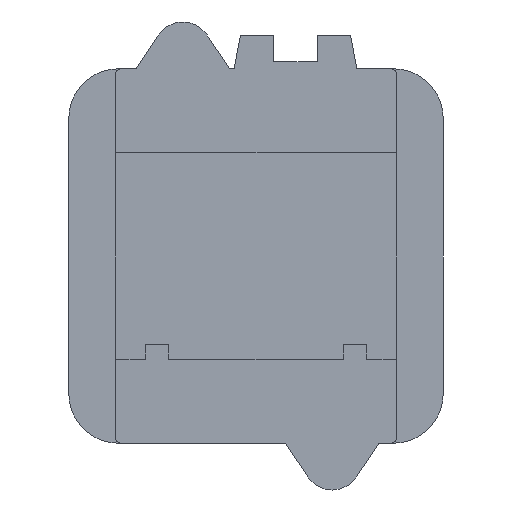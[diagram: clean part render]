
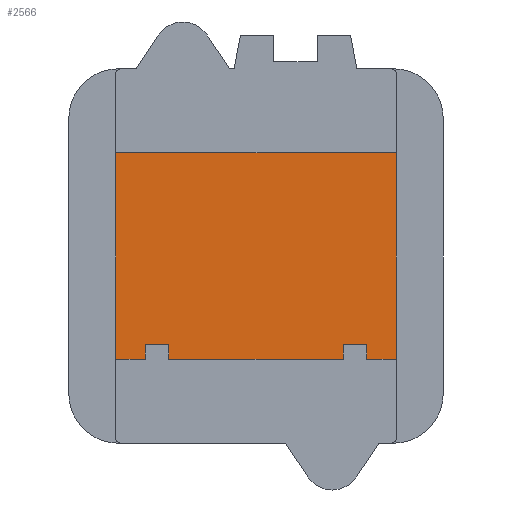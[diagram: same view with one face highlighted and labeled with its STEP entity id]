
A CAD part, front view. The second image highlights one B-rep face of the part: STEP entity #2566.
In plain terms, the highlighted planar face has unit normal (0, -1, 0).
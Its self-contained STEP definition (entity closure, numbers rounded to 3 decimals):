
#296 = DIRECTION ( 'NONE',  ( 1., 0., 0. ) ) ;
#596 = VECTOR ( 'NONE', #296, 1000. ) ;
#765 = LINE ( 'NONE', #1395, #596 ) ;
#845 = VERTEX_POINT ( 'NONE', #7013 ) ;
#918 = ORIENTED_EDGE ( 'NONE', *, *, #12560, .F. ) ;
#1070 = CARTESIAN_POINT ( 'NONE',  ( 24., 4., 17.65 ) ) ;
#1395 = CARTESIAN_POINT ( 'NONE',  ( 0., 4., 17.65 ) ) ;
#1415 = ORIENTED_EDGE ( 'NONE', *, *, #2974, .F. ) ;
#2011 = AXIS2_PLACEMENT_3D ( 'NONE', #5587, #6765, #14842 ) ;
#2275 = VERTEX_POINT ( 'NONE', #1070 ) ;
#2369 = FACE_OUTER_BOUND ( 'NONE', #3673, .T. ) ;
#2416 = CARTESIAN_POINT ( 'NONE',  ( -24., 4., -32. ) ) ;
#2468 = VERTEX_POINT ( 'NONE', #5430 ) ;
#2566 = ADVANCED_FACE ( 'NONE', ( #2369 ), #12547, .F. ) ;
#2974 = EDGE_CURVE ( 'NONE', #9846, #2275, #765, .T. ) ;
#3673 = EDGE_LOOP ( 'NONE', ( #918, #11527, #1415, #14265 ) ) ;
#4273 = VECTOR ( 'NONE', #12933, 1000. ) ;
#4721 = CARTESIAN_POINT ( 'NONE',  ( 24., 4., 0. ) ) ;
#5430 = CARTESIAN_POINT ( 'NONE',  ( 24., 4., -17.65 ) ) ;
#5587 = CARTESIAN_POINT ( 'NONE',  ( 0., 4., 0. ) ) ;
#5894 = DIRECTION ( 'NONE',  ( 0., 0., -1. ) ) ;
#6749 = EDGE_CURVE ( 'NONE', #2275, #2468, #7964, .T. ) ;
#6765 = DIRECTION ( 'NONE',  ( 0., 1., 0. ) ) ;
#6854 = LINE ( 'NONE', #8346, #4273 ) ;
#7013 = CARTESIAN_POINT ( 'NONE',  ( -24., 4., -17.65 ) ) ;
#7783 = VECTOR ( 'NONE', #5894, 1000. ) ;
#7962 = CARTESIAN_POINT ( 'NONE',  ( -24., 4., 17.65 ) ) ;
#7964 = LINE ( 'NONE', #4721, #7783 ) ;
#8346 = CARTESIAN_POINT ( 'NONE',  ( 0., 4., -17.65 ) ) ;
#9358 = DIRECTION ( 'NONE',  ( 0., 0., -1. ) ) ;
#9846 = VERTEX_POINT ( 'NONE', #7962 ) ;
#11527 = ORIENTED_EDGE ( 'NONE', *, *, #6749, .F. ) ;
#12547 = PLANE ( 'NONE',  #2011 ) ;
#12560 = EDGE_CURVE ( 'NONE', #2468, #845, #6854, .T. ) ;
#12933 = DIRECTION ( 'NONE',  ( -1., 0., 0. ) ) ;
#14239 = VECTOR ( 'NONE', #9358, 1000. ) ;
#14265 = ORIENTED_EDGE ( 'NONE', *, *, #14897, .T. ) ;
#14299 = LINE ( 'NONE', #2416, #14239 ) ;
#14842 = DIRECTION ( 'NONE',  ( 0., 0., 1. ) ) ;
#14897 = EDGE_CURVE ( 'NONE', #9846, #845, #14299, .T. ) ;
